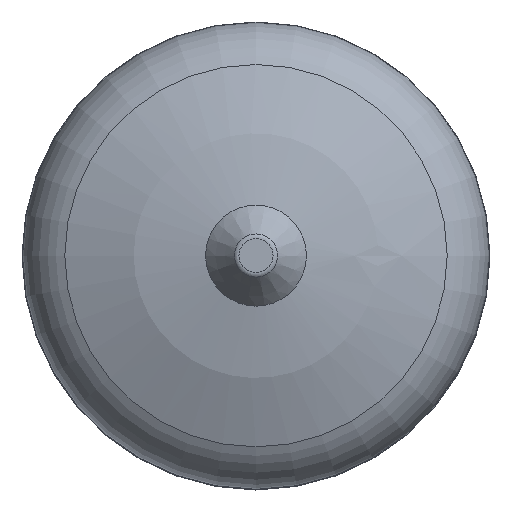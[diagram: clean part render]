
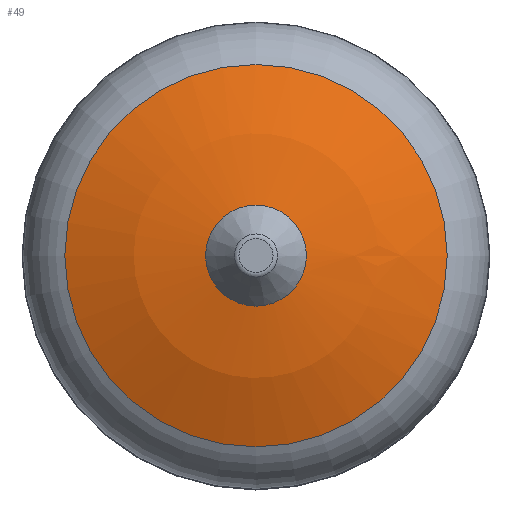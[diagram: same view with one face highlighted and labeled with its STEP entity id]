
A CAD part, top view. The second image highlights one B-rep face of the part: STEP entity #49.
In plain terms, the highlighted spherical face has radius 235.8 mm.
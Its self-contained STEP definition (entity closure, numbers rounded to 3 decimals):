
#49=ADVANCED_FACE('',(#124,#126),#128,.T.);
#124=FACE_BOUND('',#125,.T.);
#125=EDGE_LOOP('',(#410,#411));
#126=FACE_BOUND('',#127,.T.);
#127=EDGE_LOOP('',(#412,#413));
#128=SPHERICAL_SURFACE('',#129,235.8);
#129=AXIS2_PLACEMENT_3D('',#130,#131,#132);
#130=CARTESIAN_POINT('',(0.,0.,17.928));
#131=DIRECTION('',(0.,0.,1.));
#132=DIRECTION('',(1.,0.,0.));
#410=ORIENTED_EDGE('',*,*,#537,.T.);
#411=ORIENTED_EDGE('',*,*,#536,.T.);
#412=ORIENTED_EDGE('',*,*,#538,.F.);
#413=ORIENTED_EDGE('',*,*,#539,.F.);
#536=EDGE_CURVE('',#614,#615,#616,.T.);
#537=EDGE_CURVE('',#615,#614,#617,.T.);
#538=EDGE_CURVE('',#618,#619,#620,.T.);
#539=EDGE_CURVE('',#619,#618,#621,.T.);
#614=VERTEX_POINT('',#780);
#615=VERTEX_POINT('',#781);
#616=CIRCLE('',#782,96.324);
#617=CIRCLE('',#786,96.324);
#618=VERTEX_POINT('',#790);
#619=VERTEX_POINT('',#791);
#620=CIRCLE('',#792,25.431);
#621=CIRCLE('',#796,25.431);
#780=CARTESIAN_POINT('',(-96.324,0.,233.156));
#781=CARTESIAN_POINT('',(96.324,0.,233.156));
#782=AXIS2_PLACEMENT_3D('',#783,#784,#785);
#783=CARTESIAN_POINT('',(0.,0.,233.156));
#784=DIRECTION('',(0.,0.,1.));
#785=DIRECTION('',(-1.,0.,0.));
#786=AXIS2_PLACEMENT_3D('',#787,#788,#789);
#787=CARTESIAN_POINT('',(0.,0.,233.156));
#788=DIRECTION('',(0.,0.,1.));
#789=DIRECTION('',(1.,0.,0.));
#790=CARTESIAN_POINT('',(-25.431,0.,252.352));
#791=CARTESIAN_POINT('',(25.431,0.,252.352));
#792=AXIS2_PLACEMENT_3D('',#793,#794,#795);
#793=CARTESIAN_POINT('',(0.,0.,252.352));
#794=DIRECTION('',(0.,0.,1.));
#795=DIRECTION('',(-1.,0.,0.));
#796=AXIS2_PLACEMENT_3D('',#797,#798,#799);
#797=CARTESIAN_POINT('',(0.,0.,252.352));
#798=DIRECTION('',(0.,0.,1.));
#799=DIRECTION('',(1.,0.,0.));
